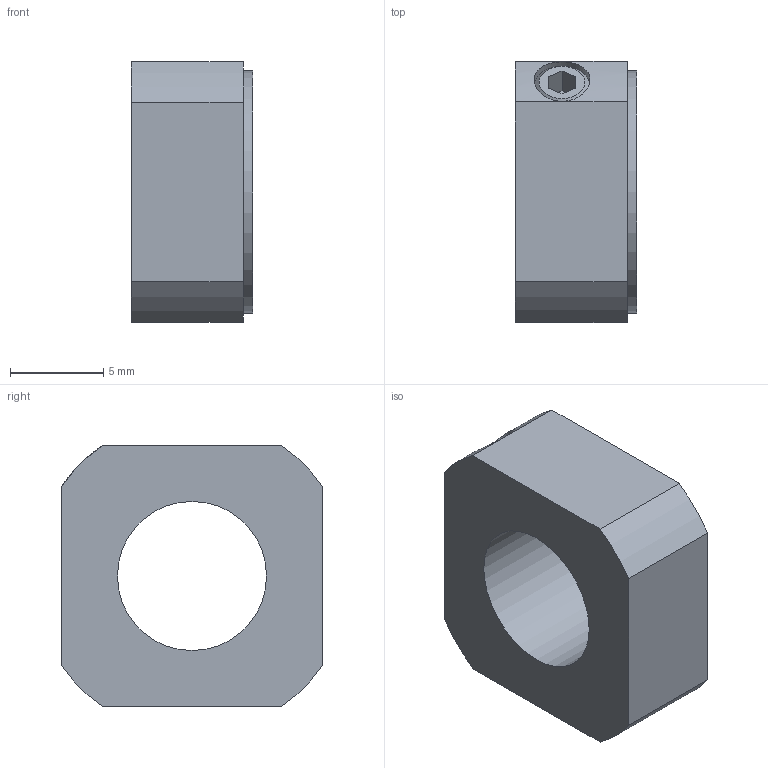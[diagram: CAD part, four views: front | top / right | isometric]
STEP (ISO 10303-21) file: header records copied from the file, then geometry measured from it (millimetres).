
FILE_DESCRIPTION((''),'2;1');
FILE_NAME('D:\製品 (図面)\カタログ用3D\ネジ関連\STEP形式\LNM\LNM8×1.stp','2010-06-02T14:34:56',('Tsuchiya'),(''),'Autodesk Inventor 10','Autodesk Inventor 10','');
FILE_SCHEMA(('AUTOMOTIVE_DESIGN { 1 0 10303 214 1 1 1 1 }'));
Length unit declared in the file: millimetre
Products named in the file (1): LNM8×1
Bounding box: 6.5 x 14 x 14 mm (x, y, z)
Volume: 861.3 mm3; surface area: 776.9 mm2
Topology: 1 solids, 1 shells, 23 faces, 55 edges, 37 vertices
Faces by surface type: plane 15, cylinder 6, cone 1, bspline 1
Full cylindrical faces by diameter (mm): 3 x1, 13 x1
Entity records: 732 total; most frequent: CARTESIAN_POINT 181, DIRECTION 108, ORIENTED_EDGE 100, EDGE_CURVE 50, AXIS2_PLACEMENT_3D 37, VERTEX_POINT 36, VECTOR 34, LINE 34
